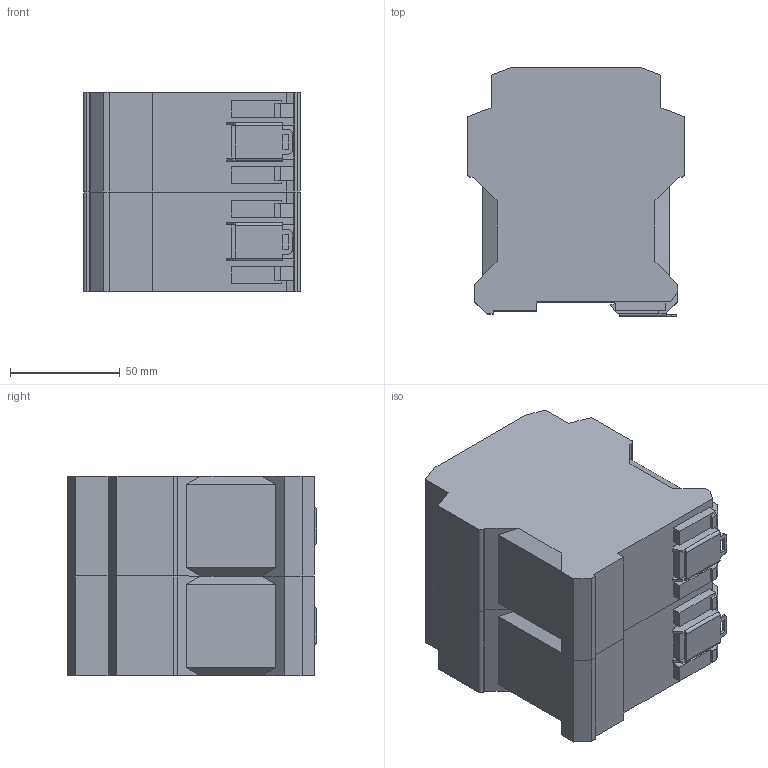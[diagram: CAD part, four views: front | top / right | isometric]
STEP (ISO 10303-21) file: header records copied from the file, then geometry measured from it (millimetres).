
FILE_DESCRIPTION (( 'STEP AP214' ), '1' );
FILE_NAME ('ZF_STEP_CS_fC-fC_mM-X.step', '2021-02-15T12:59:32', ( '' ), ( '' ), 'SwSTEP 2.0', 'SolidWorks 2014', '' );
FILE_SCHEMA (( 'AUTOMOTIVE_DESIGN' ));
Length unit declared in the file: millimetre
Products named in the file (4): ZF_STEP_CS_fC-fC_mM-X; CS_morsetti_M_45; ZF_STEP_CS_fC_mM-X; DIN
Assembly tree (4 placements, depth 3):
  ZF_STEP_CS_fC-fC_mM-X
    ZF_STEP_CS_fC_mM-X  x2
      CS_morsetti_M_45
      DIN
Bounding box: 99 x 113.7 x 91.2 mm (x, y, z)
Volume: 875095.8 mm3; surface area: 79818.9 mm2
Topology: 4 solids, 4 shells, 184 faces, 516 edges, 340 vertices
Faces by surface type: plane 172, cylinder 12
Entity records: 3087 total; most frequent: CARTESIAN_POINT 528, ORIENTED_EDGE 516, DIRECTION 470, EDGE_CURVE 258, VECTOR 246, LINE 246, VERTEX_POINT 170, AXIS2_PLACEMENT_3D 112
